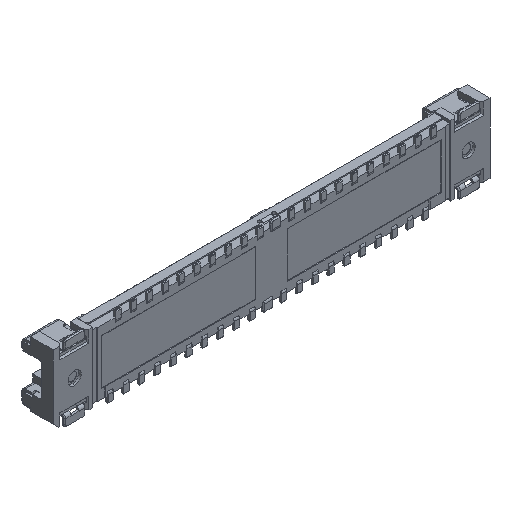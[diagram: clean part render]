
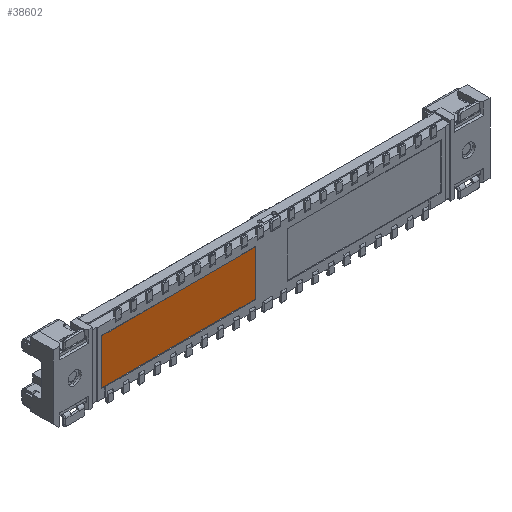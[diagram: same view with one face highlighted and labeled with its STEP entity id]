
A CAD part, isometric view. The second image highlights one B-rep face of the part: STEP entity #38602.
In plain terms, the highlighted planar face has unit normal (0, -1, 0).
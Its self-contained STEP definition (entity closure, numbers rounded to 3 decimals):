
#1500 = AXIS2_PLACEMENT_3D ( 'NONE', #3471, #3482, #3483 ) ;
#3471 = CARTESIAN_POINT ( 'NONE',  ( 7.096, 0.03, -0.3 ) ) ;
#3479 = FACE_OUTER_BOUND ( 'NONE', #43484, .T. ) ;
#3480 = PLANE ( 'NONE',  #1500 ) ;
#3482 = DIRECTION ( 'NONE',  ( 0., 1., 0. ) ) ;
#3483 = DIRECTION ( 'NONE',  ( 0., 0., 1. ) ) ;
#25475 = VERTEX_POINT ( 'NONE', #59058 ) ;
#25480 = VERTEX_POINT ( 'NONE', #59063 ) ;
#26071 = VERTEX_POINT ( 'NONE', #60821 ) ;
#26285 = VERTEX_POINT ( 'NONE', #61035 ) ;
#31703 = VECTOR ( 'NONE', #33551, 1000. ) ;
#31706 = VECTOR ( 'NONE', #33545, 1000. ) ;
#31707 = VECTOR ( 'NONE', #33549, 1000. ) ;
#31709 = VECTOR ( 'NONE', #33554, 1000. ) ;
#33414 = LINE ( 'NONE', #33550, #31703 ) ;
#33543 = LINE ( 'NONE', #33544, #31706 ) ;
#33544 = CARTESIAN_POINT ( 'NONE',  ( 7.096, 0.03, -0.87 ) ) ;
#33545 = DIRECTION ( 'NONE',  ( -1., 0., 0. ) ) ;
#33546 = LINE ( 'NONE', #33548, #31707 ) ;
#33548 = CARTESIAN_POINT ( 'NONE',  ( -0.6, 0.03, 0.87 ) ) ;
#33549 = DIRECTION ( 'NONE',  ( 0., 0., 1. ) ) ;
#33550 = CARTESIAN_POINT ( 'NONE',  ( -7.651, 0.03, 0.87 ) ) ;
#33551 = DIRECTION ( 'NONE',  ( 1., 0., 0. ) ) ;
#33552 = LINE ( 'NONE', #33553, #31709 ) ;
#33553 = CARTESIAN_POINT ( 'NONE',  ( -6.45, 0.03, 0.87 ) ) ;
#33554 = DIRECTION ( 'NONE',  ( 0., 0., -1. ) ) ;
#38602 = ADVANCED_FACE ( 'NONE', ( #3479 ), #3480, .F. ) ;
#43484 = EDGE_LOOP ( 'NONE', ( #54744, #54745, #54746, #54747 ) ) ;
#54744 = ORIENTED_EDGE ( 'NONE', *, *, #56753, .F. ) ;
#54745 = ORIENTED_EDGE ( 'NONE', *, *, #56754, .T. ) ;
#54746 = ORIENTED_EDGE ( 'NONE', *, *, #56755, .F. ) ;
#54747 = ORIENTED_EDGE ( 'NONE', *, *, #56756, .T. ) ;
#56753 = EDGE_CURVE ( 'NONE', #25480, #26071, #33543, .T. ) ;
#56754 = EDGE_CURVE ( 'NONE', #25480, #26285, #33546, .T. ) ;
#56755 = EDGE_CURVE ( 'NONE', #25475, #26285, #33414, .T. ) ;
#56756 = EDGE_CURVE ( 'NONE', #25475, #26071, #33552, .T. ) ;
#59058 = CARTESIAN_POINT ( 'NONE',  ( -6.45, 0.03, 0.87 ) ) ;
#59063 = CARTESIAN_POINT ( 'NONE',  ( -0.6, 0.03, -0.87 ) ) ;
#60821 = CARTESIAN_POINT ( 'NONE',  ( -6.45, 0.03, -0.87 ) ) ;
#61035 = CARTESIAN_POINT ( 'NONE',  ( -0.6, 0.03, 0.87 ) ) ;
